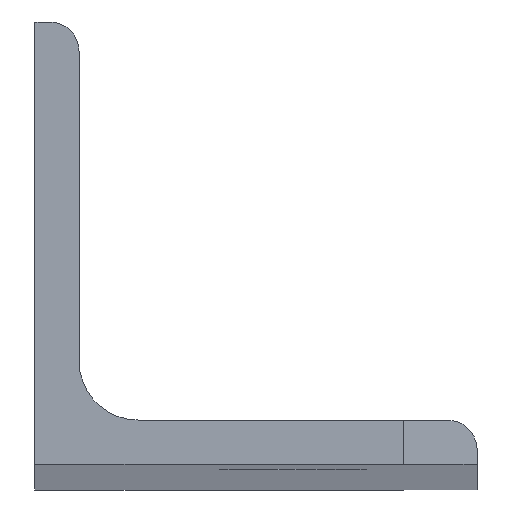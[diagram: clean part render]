
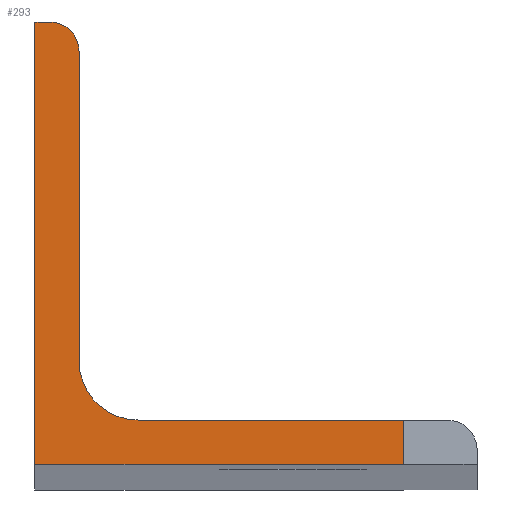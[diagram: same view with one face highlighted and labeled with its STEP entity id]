
A CAD part, top view. The second image highlights one B-rep face of the part: STEP entity #293.
In plain terms, the highlighted planar face has unit normal (0, 0, 1).
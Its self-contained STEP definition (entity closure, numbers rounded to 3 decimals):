
#8 = VERTEX_POINT ( 'NONE', #288 ) ;
#17 = ORIENTED_EDGE ( 'NONE', *, *, #285, .T. ) ;
#23 = ORIENTED_EDGE ( 'NONE', *, *, #606, .T. ) ;
#24 = VECTOR ( 'NONE', #331, 1000. ) ;
#31 = CIRCLE ( 'NONE', #232, 4. ) ;
#32 = VECTOR ( 'NONE', #594, 1000. ) ;
#33 = DIRECTION ( 'NONE',  ( 1., 0., 0. ) ) ;
#34 = CARTESIAN_POINT ( 'NONE',  ( 0., 0., 1000. ) ) ;
#68 = EDGE_LOOP ( 'NONE', ( #121, #23, #470, #363, #214, #591, #151, #17 ) ) ;
#76 = DIRECTION ( 'NONE',  ( 1., 0., 0. ) ) ;
#82 = VECTOR ( 'NONE', #330, 1000. ) ;
#95 = VERTEX_POINT ( 'NONE', #169 ) ;
#109 = CARTESIAN_POINT ( 'NONE',  ( 1., 30., 1000. ) ) ;
#117 = VECTOR ( 'NONE', #611, 1000. ) ;
#121 = ORIENTED_EDGE ( 'NONE', *, *, #616, .T. ) ;
#123 = VERTEX_POINT ( 'NONE', #171 ) ;
#127 = CARTESIAN_POINT ( 'NONE',  ( 7., 7., 1000. ) ) ;
#151 = ORIENTED_EDGE ( 'NONE', *, *, #455, .T. ) ;
#169 = CARTESIAN_POINT ( 'NONE',  ( 25., 3., 1000. ) ) ;
#170 = VERTEX_POINT ( 'NONE', #599 ) ;
#171 = CARTESIAN_POINT ( 'NONE',  ( 0., 30., 1000. ) ) ;
#177 = CARTESIAN_POINT ( 'NONE',  ( 28., 1., 1000. ) ) ;
#196 = VERTEX_POINT ( 'NONE', #210 ) ;
#210 = CARTESIAN_POINT ( 'NONE',  ( 7., 3., 1000. ) ) ;
#214 = ORIENTED_EDGE ( 'NONE', *, *, #543, .T. ) ;
#224 = CIRCLE ( 'NONE', #383, 2. ) ;
#232 = AXIS2_PLACEMENT_3D ( 'NONE', #127, #513, #515 ) ;
#233 = LINE ( 'NONE', #617, #82 ) ;
#236 = LINE ( 'NONE', #370, #24 ) ;
#273 = LINE ( 'NONE', #474, #117 ) ;
#282 = DIRECTION ( 'NONE',  ( 0., 0., 1. ) ) ;
#285 = EDGE_CURVE ( 'NONE', #582, #170, #318, .T. ) ;
#288 = CARTESIAN_POINT ( 'NONE',  ( 3., 7., 1000. ) ) ;
#293 = ADVANCED_FACE ( 'NONE', ( #512 ), #375, .T. ) ;
#318 = LINE ( 'NONE', #34, #344 ) ;
#326 = EDGE_CURVE ( 'NONE', #196, #8, #31, .T. ) ;
#327 = DIRECTION ( 'NONE',  ( 0., -1., 0. ) ) ;
#329 = CARTESIAN_POINT ( 'NONE',  ( 3., 28., 1000. ) ) ;
#330 = DIRECTION ( 'NONE',  ( 0., 1., 0. ) ) ;
#331 = DIRECTION ( 'NONE',  ( -1., 0., 0. ) ) ;
#344 = VECTOR ( 'NONE', #33, 1000. ) ;
#363 = ORIENTED_EDGE ( 'NONE', *, *, #468, .T. ) ;
#370 = CARTESIAN_POINT ( 'NONE',  ( 28., 3., 1000. ) ) ;
#375 = PLANE ( 'NONE',  #423 ) ;
#383 = AXIS2_PLACEMENT_3D ( 'NONE', #471, #282, #564 ) ;
#423 = AXIS2_PLACEMENT_3D ( 'NONE', #177, #604, #76 ) ;
#442 = LINE ( 'NONE', #583, #535 ) ;
#449 = CARTESIAN_POINT ( 'NONE',  ( 1., 30., 1000. ) ) ;
#455 = EDGE_CURVE ( 'NONE', #123, #582, #442, .T. ) ;
#468 = EDGE_CURVE ( 'NONE', #8, #622, #233, .T. ) ;
#470 = ORIENTED_EDGE ( 'NONE', *, *, #326, .T. ) ;
#471 = CARTESIAN_POINT ( 'NONE',  ( 1., 28., 1000. ) ) ;
#474 = CARTESIAN_POINT ( 'NONE',  ( 25., 0., 1000. ) ) ;
#495 = LINE ( 'NONE', #449, #32 ) ;
#504 = VERTEX_POINT ( 'NONE', #109 ) ;
#509 = EDGE_CURVE ( 'NONE', #504, #123, #495, .T. ) ;
#512 = FACE_OUTER_BOUND ( 'NONE', #68, .T. ) ;
#513 = DIRECTION ( 'NONE',  ( 0., 0., -1. ) ) ;
#515 = DIRECTION ( 'NONE',  ( -1., 0., 0. ) ) ;
#535 = VECTOR ( 'NONE', #327, 1000. ) ;
#543 = EDGE_CURVE ( 'NONE', #622, #504, #224, .T. ) ;
#564 = DIRECTION ( 'NONE',  ( 1., 0., 0. ) ) ;
#570 = CARTESIAN_POINT ( 'NONE',  ( 0., 0., 1000. ) ) ;
#582 = VERTEX_POINT ( 'NONE', #570 ) ;
#583 = CARTESIAN_POINT ( 'NONE',  ( 0., 30., 1000. ) ) ;
#591 = ORIENTED_EDGE ( 'NONE', *, *, #509, .T. ) ;
#594 = DIRECTION ( 'NONE',  ( -1., 0., 0. ) ) ;
#599 = CARTESIAN_POINT ( 'NONE',  ( 25., 0., 1000. ) ) ;
#604 = DIRECTION ( 'NONE',  ( 0., 0., 1. ) ) ;
#606 = EDGE_CURVE ( 'NONE', #95, #196, #236, .T. ) ;
#611 = DIRECTION ( 'NONE',  ( 0., 1., 0. ) ) ;
#616 = EDGE_CURVE ( 'NONE', #170, #95, #273, .T. ) ;
#617 = CARTESIAN_POINT ( 'NONE',  ( 3., 7., 1000. ) ) ;
#622 = VERTEX_POINT ( 'NONE', #329 ) ;
